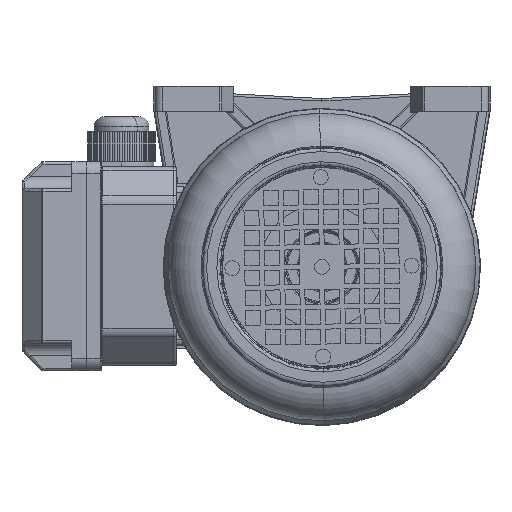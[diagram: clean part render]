
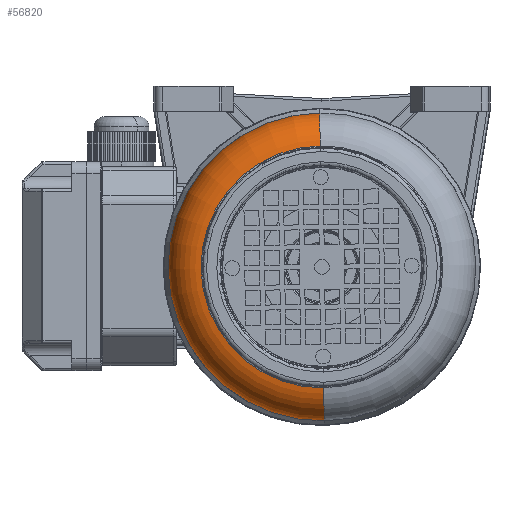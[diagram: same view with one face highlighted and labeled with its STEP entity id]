
A CAD part, front view. The second image highlights one B-rep face of the part: STEP entity #56820.
In plain terms, the highlighted toroidal (fillet/blend) face has major radius 46.75 mm and minor radius 15 mm.
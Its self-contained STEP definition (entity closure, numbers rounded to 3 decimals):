
#1157 = DIRECTION ( 'NONE',  ( 0., -1., 0. ) ) ;
#3253 = DIRECTION ( 'NONE',  ( -1., 0., 0. ) ) ;
#4079 = CIRCLE ( 'NONE', #52602, 48.591 ) ;
#7161 = CARTESIAN_POINT ( 'NONE',  ( 11392.652, -26592.948, 61.75 ) ) ;
#7245 = DIRECTION ( 'NONE',  ( -1., 0., 0. ) ) ;
#7691 = EDGE_CURVE ( 'NONE', #83407, #31193, #23578, .T. ) ;
#7939 = CARTESIAN_POINT ( 'NONE',  ( 11392.652, -26592.948, 46.75 ) ) ;
#10602 = VERTEX_POINT ( 'NONE', #50522 ) ;
#10999 = AXIS2_PLACEMENT_3D ( 'NONE', #11159, #97310, #27499 ) ;
#11159 = CARTESIAN_POINT ( 'NONE',  ( 11392.652, -26592.948, 0. ) ) ;
#15409 = CARTESIAN_POINT ( 'NONE',  ( 11392.652, -26592.948, -46.75 ) ) ;
#16585 = EDGE_CURVE ( 'NONE', #10602, #83407, #73542, .T. ) ;
#23578 = CIRCLE ( 'NONE', #10999, 61.75 ) ;
#24487 = TOROIDAL_SURFACE ( 'NONE', #51470, 46.75, 15. ) ;
#27499 = DIRECTION ( 'NONE',  ( 0., 0., 1. ) ) ;
#27740 = EDGE_CURVE ( 'NONE', #91006, #31193, #50338, .T. ) ;
#30921 = ORIENTED_EDGE ( 'NONE', *, *, #16585, .F. ) ;
#31193 = VERTEX_POINT ( 'NONE', #7161 ) ;
#41786 = ORIENTED_EDGE ( 'NONE', *, *, #71580, .T. ) ;
#42308 = ORIENTED_EDGE ( 'NONE', *, *, #7691, .F. ) ;
#50338 = CIRCLE ( 'NONE', #109714, 15. ) ;
#50522 = CARTESIAN_POINT ( 'NONE',  ( 11407.538, -26592.948, -48.591 ) ) ;
#51470 = AXIS2_PLACEMENT_3D ( 'NONE', #92825, #7245, #105714 ) ;
#52220 = CARTESIAN_POINT ( 'NONE',  ( 11407.538, -26592.948, 48.591 ) ) ;
#52602 = AXIS2_PLACEMENT_3D ( 'NONE', #96754, #3253, #52798 ) ;
#52798 = DIRECTION ( 'NONE',  ( 0., 0., 1. ) ) ;
#56820 = ADVANCED_FACE ( 'NONE', ( #109747 ), #24487, .T. ) ;
#61897 = ORIENTED_EDGE ( 'NONE', *, *, #27740, .T. ) ;
#68790 = CARTESIAN_POINT ( 'NONE',  ( 11392.652, -26592.948, -61.75 ) ) ;
#68883 = DIRECTION ( 'NONE',  ( 0., 0., 1. ) ) ;
#71580 = EDGE_CURVE ( 'NONE', #10602, #91006, #4079, .T. ) ;
#73542 = CIRCLE ( 'NONE', #89738, 15. ) ;
#83407 = VERTEX_POINT ( 'NONE', #68790 ) ;
#85253 = EDGE_LOOP ( 'NONE', ( #30921, #41786, #61897, #42308 ) ) ;
#89738 = AXIS2_PLACEMENT_3D ( 'NONE', #15409, #109486, #68883 ) ;
#91006 = VERTEX_POINT ( 'NONE', #52220 ) ;
#92825 = CARTESIAN_POINT ( 'NONE',  ( 11392.652, -26592.948, 0. ) ) ;
#96754 = CARTESIAN_POINT ( 'NONE',  ( 11407.538, -26592.948, 0. ) ) ;
#97310 = DIRECTION ( 'NONE',  ( -1., 0., 0. ) ) ;
#103124 = DIRECTION ( 'NONE',  ( 0., 0., -1. ) ) ;
#105714 = DIRECTION ( 'NONE',  ( 0., 0., 1. ) ) ;
#109486 = DIRECTION ( 'NONE',  ( 0., 1., 0. ) ) ;
#109714 = AXIS2_PLACEMENT_3D ( 'NONE', #7939, #1157, #103124 ) ;
#109747 = FACE_OUTER_BOUND ( 'NONE', #85253, .T. ) ;
